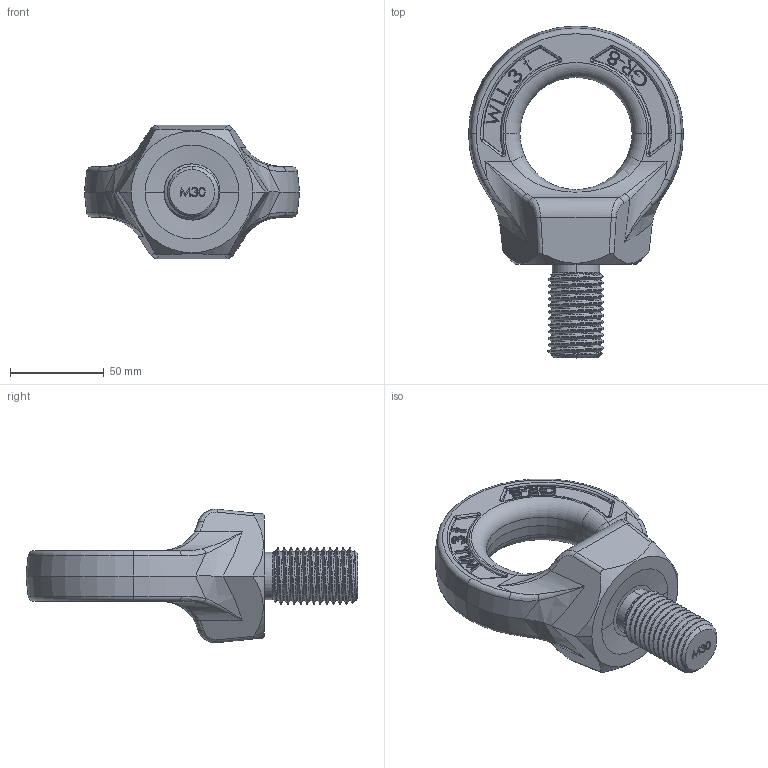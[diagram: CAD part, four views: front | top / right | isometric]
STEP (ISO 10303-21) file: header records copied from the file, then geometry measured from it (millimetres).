
FILE_DESCRIPTION (( 'STEP AP214' ), '1' );
FILE_NAME ('HTEB30.STEP', '2014-10-07T05:02:37', ( '' ), ( '' ), 'SwSTEP 2.0', 'SolidWorks 2012', '' );
FILE_SCHEMA (( 'AUTOMOTIVE_DESIGN' ));
Length unit declared in the file: millimetre
Products named in the file (1): HTEB30
Bounding box: 115 x 177.5 x 71.41 mm (x, y, z)
Volume: 337398.9 mm3; surface area: 44235.6 mm2
Topology: 1 solids, 1 shells, 792 faces, 1916 edges, 1151 vertices
Faces by surface type: plane 255, cylinder 232, bspline 212, torus 56, sphere 20, cone 17
Entity records: 40808 total; most frequent: CARTESIAN_POINT 23849, ORIENTED_EDGE 3784, DIRECTION 2613, EDGE_CURVE 1892, VERTEX_POINT 1143, VECTOR 969, LINE 969, EDGE_LOOP 835
